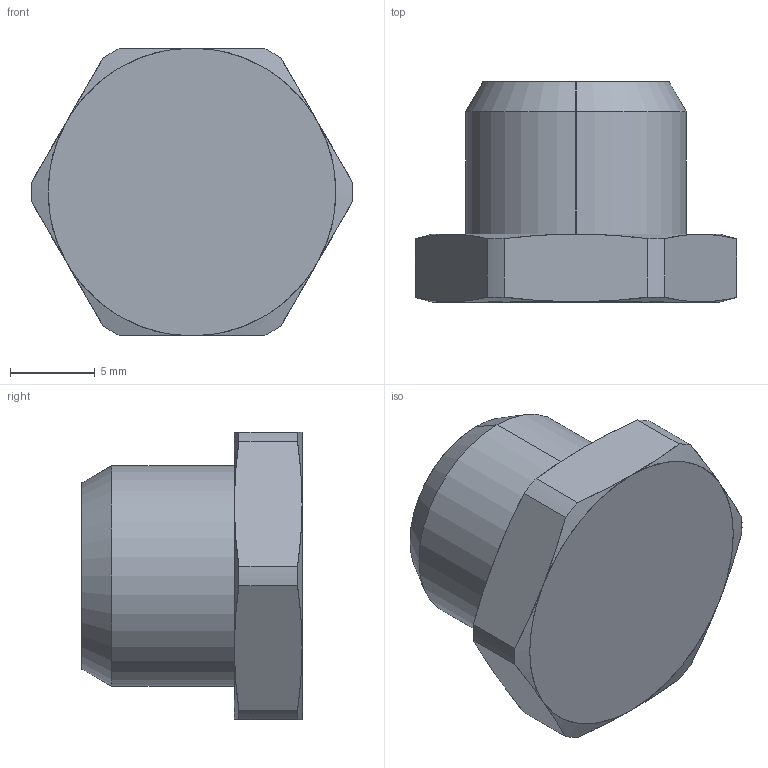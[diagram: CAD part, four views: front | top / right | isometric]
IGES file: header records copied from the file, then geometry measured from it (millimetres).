
Start section: SolidWorks IGES file using analytic representation for surfaces
Global section: file name: K:\Disegni Esecutivi\Accessori\3020\0302000010300.IGS; native system: SolidWorks 2007; preprocessor: SolidWorks 2007; author: cad02; date: 071019.151533; units: millimetre
Bounding box: 19 x 13 x 17 mm (x, y, z)
Surface area: 1274.1 mm2 (no closed solid volume)
Topology: 0 solids, 0 shells, 37 faces, 436 edges, 434 vertices
Faces by surface type: revolution 28, bspline 9
